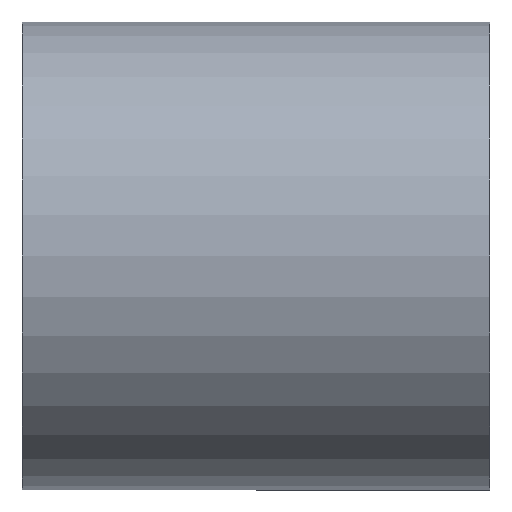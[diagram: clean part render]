
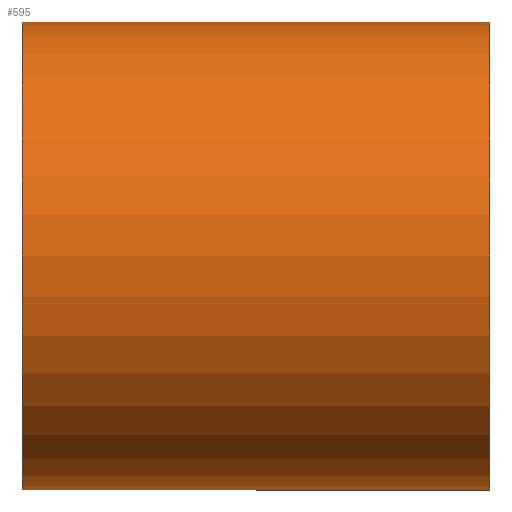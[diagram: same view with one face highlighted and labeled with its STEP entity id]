
A CAD part, front view. The second image highlights one B-rep face of the part: STEP entity #595.
In plain terms, the highlighted cylindrical face has radius 7.5 mm (diameter 15 mm), a partial arc.
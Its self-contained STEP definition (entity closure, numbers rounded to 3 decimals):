
#24 = DIRECTION ( 'NONE',  ( -1., 0., 0. ) ) ;
#39 = CARTESIAN_POINT ( 'NONE',  ( 7.5, 0., 0. ) ) ;
#51 = FACE_OUTER_BOUND ( 'NONE', #264, .T. ) ;
#82 = AXIS2_PLACEMENT_3D ( 'NONE', #439, #24, #229 ) ;
#94 = EDGE_CURVE ( 'NONE', #237, #525, #583, .T. ) ;
#103 = CARTESIAN_POINT ( 'NONE',  ( 0., 0., 7.5 ) ) ;
#145 = ORIENTED_EDGE ( 'NONE', *, *, #431, .F. ) ;
#181 = CARTESIAN_POINT ( 'NONE',  ( -7.5, 0., -7.5 ) ) ;
#187 = CIRCLE ( 'NONE', #687, 7.5 ) ;
#229 = DIRECTION ( 'NONE',  ( 0., 0., 1. ) ) ;
#237 = VERTEX_POINT ( 'NONE', #693 ) ;
#261 = CARTESIAN_POINT ( 'NONE',  ( -7.5, 0., 7.5 ) ) ;
#264 = EDGE_LOOP ( 'NONE', ( #145, #449, #792, #395 ) ) ;
#303 = LINE ( 'NONE', #370, #734 ) ;
#316 = DIRECTION ( 'NONE',  ( -1., 0., 0. ) ) ;
#370 = CARTESIAN_POINT ( 'NONE',  ( 0., 0., -7.5 ) ) ;
#383 = EDGE_CURVE ( 'NONE', #549, #525, #717, .T. ) ;
#395 = ORIENTED_EDGE ( 'NONE', *, *, #383, .F. ) ;
#426 = DIRECTION ( 'NONE',  ( -1., 0., 0. ) ) ;
#431 = EDGE_CURVE ( 'NONE', #674, #549, #303, .T. ) ;
#439 = CARTESIAN_POINT ( 'NONE',  ( -7.5, 0., 0. ) ) ;
#449 = ORIENTED_EDGE ( 'NONE', *, *, #469, .T. ) ;
#469 = EDGE_CURVE ( 'NONE', #674, #237, #187, .T. ) ;
#477 = DIRECTION ( 'NONE',  ( 0., 0., 1. ) ) ;
#499 = DIRECTION ( 'NONE',  ( 0., 0., 1. ) ) ;
#504 = DIRECTION ( 'NONE',  ( -1., 0., 0. ) ) ;
#506 = AXIS2_PLACEMENT_3D ( 'NONE', #758, #426, #477 ) ;
#525 = VERTEX_POINT ( 'NONE', #261 ) ;
#546 = CARTESIAN_POINT ( 'NONE',  ( 7.5, 0., -7.5 ) ) ;
#549 = VERTEX_POINT ( 'NONE', #181 ) ;
#583 = LINE ( 'NONE', #103, #806 ) ;
#595 = ADVANCED_FACE ( 'NONE', ( #51 ), #877, .T. ) ;
#674 = VERTEX_POINT ( 'NONE', #546 ) ;
#687 = AXIS2_PLACEMENT_3D ( 'NONE', #39, #316, #499 ) ;
#693 = CARTESIAN_POINT ( 'NONE',  ( 7.5, 0., 7.5 ) ) ;
#717 = CIRCLE ( 'NONE', #82, 7.5 ) ;
#734 = VECTOR ( 'NONE', #504, 1000. ) ;
#758 = CARTESIAN_POINT ( 'NONE',  ( 0., 0., 0. ) ) ;
#792 = ORIENTED_EDGE ( 'NONE', *, *, #94, .T. ) ;
#795 = DIRECTION ( 'NONE',  ( -1., 0., 0. ) ) ;
#806 = VECTOR ( 'NONE', #795, 1000. ) ;
#877 = CYLINDRICAL_SURFACE ( 'NONE', #506, 7.5 ) ;
